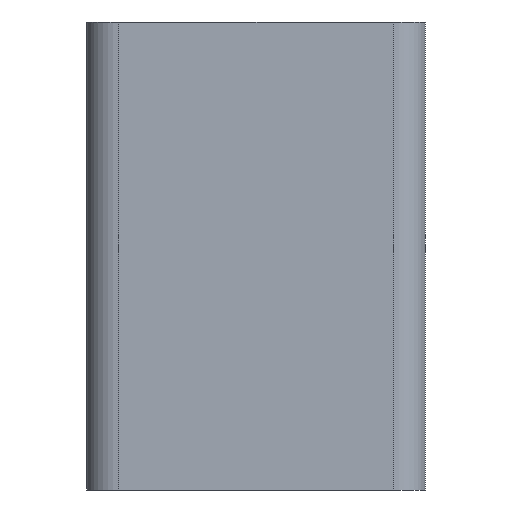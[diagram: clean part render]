
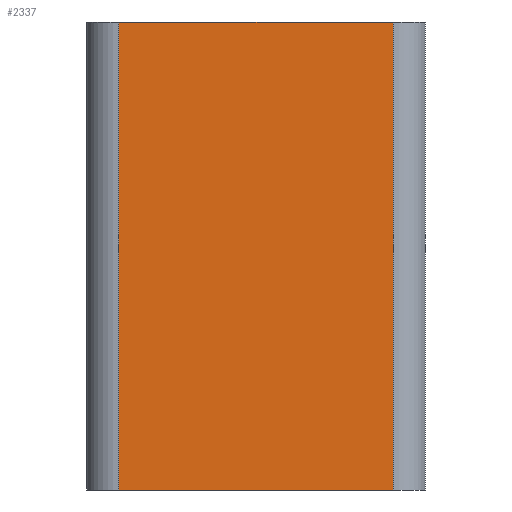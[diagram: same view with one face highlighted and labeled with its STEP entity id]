
A CAD part, left-side view. The second image highlights one B-rep face of the part: STEP entity #2337.
In plain terms, the highlighted planar face has unit normal (-1, 0, 0).
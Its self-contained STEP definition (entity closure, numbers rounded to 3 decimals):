
#2324=AXIS2_PLACEMENT_3D('Plane Axis2P3D',#2321,#2322,#2323) ;
#1311=CARTESIAN_POINT('Vertex',(-23.85,-2.754,14.5)) ;
#1314=CARTESIAN_POINT('Line Origine',(-23.85,-7.004,14.5)) ;
#1318=CARTESIAN_POINT('Vertex',(-23.85,-11.254,14.5)) ;
#1635=CARTESIAN_POINT('Vertex',(-23.85,-11.254,0.)) ;
#1638=CARTESIAN_POINT('Line Origine',(-23.85,-7.004,0.)) ;
#1642=CARTESIAN_POINT('Vertex',(-23.85,-2.754,0.)) ;
#2309=CARTESIAN_POINT('Line Origine',(-23.85,-2.754,7.25)) ;
#2321=CARTESIAN_POINT('Axis2P3D Location',(-23.85,-1.754,0.)) ;
#2326=CARTESIAN_POINT('Line Origine',(-23.85,-11.254,7.25)) ;
#1315=DIRECTION('Vector Direction',(0.,-1.,0.)) ;
#1639=DIRECTION('Vector Direction',(0.,-1.,0.)) ;
#2310=DIRECTION('Vector Direction',(0.,0.,1.)) ;
#2322=DIRECTION('Axis2P3D Direction',(-1.,0.,0.)) ;
#2323=DIRECTION('Axis2P3D XDirection',(0.,-1.,0.)) ;
#2327=DIRECTION('Vector Direction',(0.,0.,1.)) ;
#1316=VECTOR('Line Direction',#1315,1.) ;
#1640=VECTOR('Line Direction',#1639,1.) ;
#2311=VECTOR('Line Direction',#2310,1.) ;
#2328=VECTOR('Line Direction',#2327,1.) ;
#2332=ORIENTED_EDGE('',*,*,#1644,.T.) ;
#2333=ORIENTED_EDGE('',*,*,#2330,.T.) ;
#2334=ORIENTED_EDGE('',*,*,#1320,.F.) ;
#2335=ORIENTED_EDGE('',*,*,#2313,.F.) ;
#2337=ADVANCED_FACE('\X2\96F64EF651E04F554F53\X0\',(#2336),#2325,.T.) ;
#1320=EDGE_CURVE('',#1312,#1319,#1317,.T.) ;
#1644=EDGE_CURVE('',#1643,#1636,#1641,.T.) ;
#2313=EDGE_CURVE('',#1643,#1312,#2312,.T.) ;
#2330=EDGE_CURVE('',#1636,#1319,#2329,.T.) ;
#2331=EDGE_LOOP('',(#2332,#2333,#2334,#2335)) ;
#2336=FACE_OUTER_BOUND('',#2331,.T.) ;
#1317=LINE('Line',#1314,#1316) ;
#1641=LINE('Line',#1638,#1640) ;
#2312=LINE('Line',#2309,#2311) ;
#2329=LINE('Line',#2326,#2328) ;
#2325=PLANE('Plane',#2324) ;
#1312=VERTEX_POINT('',#1311) ;
#1319=VERTEX_POINT('',#1318) ;
#1636=VERTEX_POINT('',#1635) ;
#1643=VERTEX_POINT('',#1642) ;
